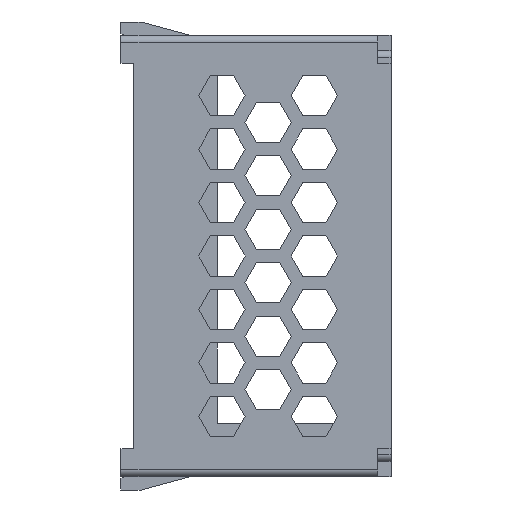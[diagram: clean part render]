
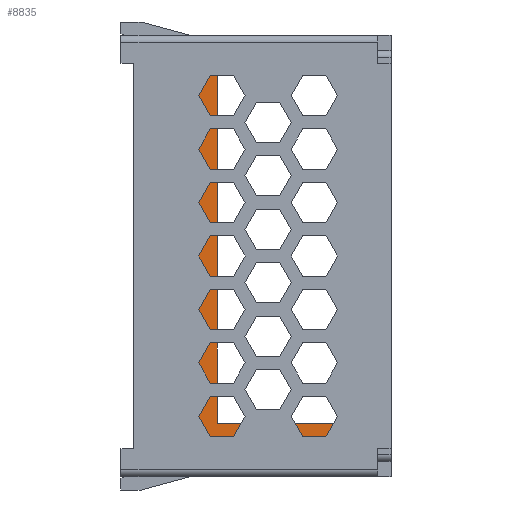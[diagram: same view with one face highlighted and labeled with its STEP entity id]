
A CAD part, left-side view. The second image highlights one B-rep face of the part: STEP entity #8835.
In plain terms, the highlighted planar face has unit normal (-1, 0, 0).
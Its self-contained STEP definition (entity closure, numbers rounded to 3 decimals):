
#167 = VERTEX_POINT ( 'NONE', #5551 ) ;
#183 = VECTOR ( 'NONE', #26346, 1000. ) ;
#299 = ORIENTED_EDGE ( 'NONE', *, *, #9062, .F. ) ;
#301 = ORIENTED_EDGE ( 'NONE', *, *, #20567, .T. ) ;
#936 = VECTOR ( 'NONE', #23330, 1000. ) ;
#960 = DIRECTION ( 'NONE',  ( 0., 0., -1. ) ) ;
#1343 = ORIENTED_EDGE ( 'NONE', *, *, #23754, .T. ) ;
#1454 = LINE ( 'NONE', #20335, #22801 ) ;
#1524 = DIRECTION ( 'NONE',  ( -1., 0., 0. ) ) ;
#1624 = VECTOR ( 'NONE', #10111, 1000. ) ;
#1627 = DIRECTION ( 'NONE',  ( 0., -1., 0. ) ) ;
#1710 = DIRECTION ( 'NONE',  ( 0., -1., 0. ) ) ;
#1751 = ORIENTED_EDGE ( 'NONE', *, *, #15258, .F. ) ;
#2000 = EDGE_LOOP ( 'NONE', ( #10241, #301, #25921, #22663 ) ) ;
#2587 = CARTESIAN_POINT ( 'NONE',  ( 45., 36.4, 26.85 ) ) ;
#2771 = ORIENTED_EDGE ( 'NONE', *, *, #24124, .F. ) ;
#3036 = ORIENTED_EDGE ( 'NONE', *, *, #10697, .T. ) ;
#3183 = AXIS2_PLACEMENT_3D ( 'NONE', #8073, #1524, #27694 ) ;
#3369 = CARTESIAN_POINT ( 'NONE',  ( 45., 2., 26.5 ) ) ;
#3430 = VERTEX_POINT ( 'NONE', #17375 ) ;
#3624 = EDGE_CURVE ( 'NONE', #8807, #8433, #18809, .T. ) ;
#3750 = CARTESIAN_POINT ( 'NONE',  ( 45., 36.4, 26.85 ) ) ;
#4355 = CARTESIAN_POINT ( 'NONE',  ( 45., 36.4, 28. ) ) ;
#4498 = VERTEX_POINT ( 'NONE', #9938 ) ;
#4971 = DIRECTION ( 'NONE',  ( 0., 1., 0. ) ) ;
#5007 = VERTEX_POINT ( 'NONE', #7703 ) ;
#5504 = CARTESIAN_POINT ( 'NONE',  ( 45., 22., -27. ) ) ;
#5551 = CARTESIAN_POINT ( 'NONE',  ( 45., 2., -27. ) ) ;
#5552 = VERTEX_POINT ( 'NONE', #25157 ) ;
#5811 = VECTOR ( 'NONE', #1710, 1000. ) ;
#5947 = LINE ( 'NONE', #19918, #183 ) ;
#6179 = CARTESIAN_POINT ( 'NONE',  ( 45., 0., -32. ) ) ;
#7703 = CARTESIAN_POINT ( 'NONE',  ( 45., 36.4, -30.85 ) ) ;
#8073 = CARTESIAN_POINT ( 'NONE',  ( 45., 36.4, -33. ) ) ;
#8433 = VERTEX_POINT ( 'NONE', #13706 ) ;
#8670 = VECTOR ( 'NONE', #26514, 1000. ) ;
#8807 = VERTEX_POINT ( 'NONE', #5504 ) ;
#8835 = ADVANCED_FACE ( 'NONE', ( #21583, #9080 ), #23028, .T. ) ;
#9062 = EDGE_CURVE ( 'NONE', #28053, #4498, #5947, .T. ) ;
#9080 = FACE_BOUND ( 'NONE', #2000, .T. ) ;
#9185 = EDGE_CURVE ( 'NONE', #3430, #19233, #26609, .T. ) ;
#9938 = CARTESIAN_POINT ( 'NONE',  ( 45., 34.5, 26.85 ) ) ;
#10111 = DIRECTION ( 'NONE',  ( 0., 0., -1. ) ) ;
#10179 = LINE ( 'NONE', #3369, #22673 ) ;
#10241 = ORIENTED_EDGE ( 'NONE', *, *, #24697, .T. ) ;
#10697 = EDGE_CURVE ( 'NONE', #24888, #5552, #19032, .T. ) ;
#10766 = ORIENTED_EDGE ( 'NONE', *, *, #9185, .T. ) ;
#11027 = ORIENTED_EDGE ( 'NONE', *, *, #19478, .F. ) ;
#11533 = LINE ( 'NONE', #14772, #936 ) ;
#11766 = CARTESIAN_POINT ( 'NONE',  ( 45., 0., -33. ) ) ;
#11869 = LINE ( 'NONE', #11766, #1624 ) ;
#12312 = EDGE_CURVE ( 'NONE', #19233, #20678, #1454, .T. ) ;
#13059 = VECTOR ( 'NONE', #1627, 1000. ) ;
#13706 = CARTESIAN_POINT ( 'NONE',  ( 45., 22., 26.5 ) ) ;
#14321 = DIRECTION ( 'NONE',  ( 0., -1., 0. ) ) ;
#14601 = CARTESIAN_POINT ( 'NONE',  ( 45., 36.4, -30.85 ) ) ;
#14772 = CARTESIAN_POINT ( 'NONE',  ( 45., 2., -27. ) ) ;
#14773 = VECTOR ( 'NONE', #14935, 1000. ) ;
#14935 = DIRECTION ( 'NONE',  ( 0., 0., -1. ) ) ;
#15237 = EDGE_LOOP ( 'NONE', ( #1343, #3036, #1751, #10766, #24136, #11027, #299, #2771 ) ) ;
#15258 = EDGE_CURVE ( 'NONE', #3430, #5552, #11869, .T. ) ;
#15269 = EDGE_CURVE ( 'NONE', #167, #8807, #11533, .T. ) ;
#15704 = LINE ( 'NONE', #23038, #13059 ) ;
#16773 = VECTOR ( 'NONE', #26709, 1000. ) ;
#17375 = CARTESIAN_POINT ( 'NONE',  ( 45., 0., 28. ) ) ;
#18073 = CARTESIAN_POINT ( 'NONE',  ( 45., 34.5, -30.85 ) ) ;
#18110 = LINE ( 'NONE', #14601, #24186 ) ;
#18554 = DIRECTION ( 'NONE',  ( 0., 0., -1. ) ) ;
#18702 = LINE ( 'NONE', #2587, #23093 ) ;
#18809 = LINE ( 'NONE', #24635, #8670 ) ;
#19032 = LINE ( 'NONE', #6179, #5811 ) ;
#19116 = CARTESIAN_POINT ( 'NONE',  ( 45., 36.4, 28. ) ) ;
#19233 = VERTEX_POINT ( 'NONE', #19116 ) ;
#19478 = EDGE_CURVE ( 'NONE', #4498, #20678, #18702, .T. ) ;
#19918 = CARTESIAN_POINT ( 'NONE',  ( 45., 34.5, -33. ) ) ;
#20335 = CARTESIAN_POINT ( 'NONE',  ( 45., 36.4, -33. ) ) ;
#20567 = EDGE_CURVE ( 'NONE', #23358, #167, #10179, .T. ) ;
#20678 = VERTEX_POINT ( 'NONE', #3750 ) ;
#21583 = FACE_OUTER_BOUND ( 'NONE', #15237, .T. ) ;
#22663 = ORIENTED_EDGE ( 'NONE', *, *, #3624, .T. ) ;
#22673 = VECTOR ( 'NONE', #18554, 1000. ) ;
#22801 = VECTOR ( 'NONE', #960, 1000. ) ;
#23028 = PLANE ( 'NONE',  #3183 ) ;
#23038 = CARTESIAN_POINT ( 'NONE',  ( 45., 2., 26.5 ) ) ;
#23093 = VECTOR ( 'NONE', #4971, 1000. ) ;
#23330 = DIRECTION ( 'NONE',  ( 0., 1., 0. ) ) ;
#23358 = VERTEX_POINT ( 'NONE', #24301 ) ;
#23754 = EDGE_CURVE ( 'NONE', #5007, #24888, #27933, .T. ) ;
#24124 = EDGE_CURVE ( 'NONE', #5007, #28053, #18110, .T. ) ;
#24136 = ORIENTED_EDGE ( 'NONE', *, *, #12312, .T. ) ;
#24186 = VECTOR ( 'NONE', #14321, 1000. ) ;
#24301 = CARTESIAN_POINT ( 'NONE',  ( 45., 2., 26.5 ) ) ;
#24450 = CARTESIAN_POINT ( 'NONE',  ( 45., 36.4, -32. ) ) ;
#24635 = CARTESIAN_POINT ( 'NONE',  ( 45., 22., 26.5 ) ) ;
#24697 = EDGE_CURVE ( 'NONE', #8433, #23358, #15704, .T. ) ;
#24888 = VERTEX_POINT ( 'NONE', #24450 ) ;
#25157 = CARTESIAN_POINT ( 'NONE',  ( 45., 0., -32. ) ) ;
#25921 = ORIENTED_EDGE ( 'NONE', *, *, #15269, .T. ) ;
#26346 = DIRECTION ( 'NONE',  ( 0., 0., 1. ) ) ;
#26514 = DIRECTION ( 'NONE',  ( 0., 0., 1. ) ) ;
#26609 = LINE ( 'NONE', #4355, #16773 ) ;
#26709 = DIRECTION ( 'NONE',  ( 0., 1., 0. ) ) ;
#27694 = DIRECTION ( 'NONE',  ( 0., 0., 1. ) ) ;
#27880 = CARTESIAN_POINT ( 'NONE',  ( 45., 36.4, -33. ) ) ;
#27933 = LINE ( 'NONE', #27880, #14773 ) ;
#28053 = VERTEX_POINT ( 'NONE', #18073 ) ;
